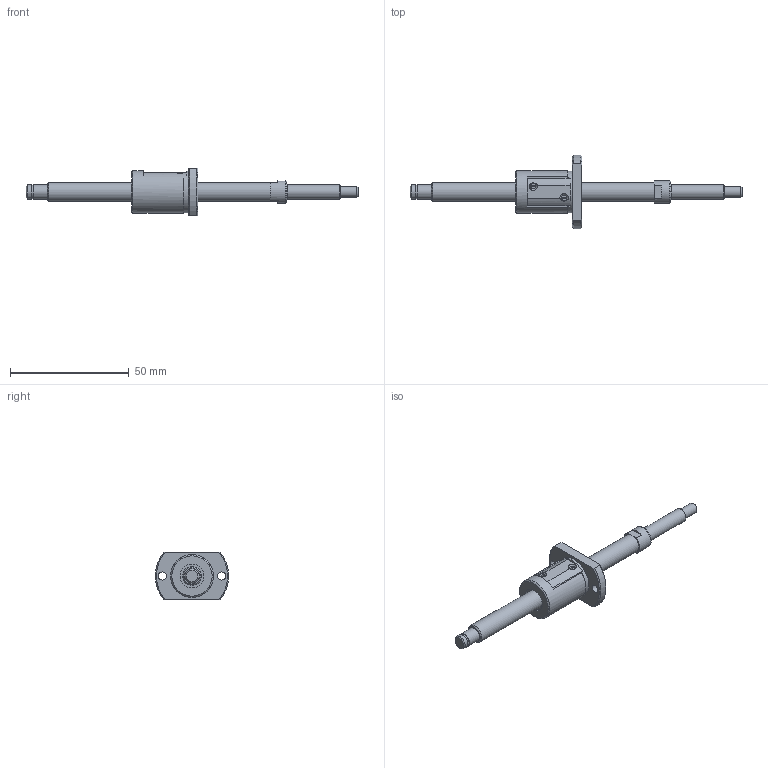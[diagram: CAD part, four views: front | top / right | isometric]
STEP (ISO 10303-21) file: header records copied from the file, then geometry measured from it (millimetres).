
FILE_DESCRIPTION(/* description */ ('STEP AP214'),/* implementation_level */ '2;1');
FILE_NAME(/* name */ 'SG0805-090R140C5B0X(35.5)',/* time_stamp */ '2026-07-21T16:51:18+02:00',/* author */ ('License CC BY-ND 4.0'),/* organization */ ('CADENAS'),/* preprocessor_version */ 'ST-DEVELOPER v20',/* originating_system */ 'PARTsolutions',/* authorisation */ ' ');
FILE_SCHEMA (('AUTOMOTIVE_DESIGN {1 0 10303 214 3 1 1}'));
Length unit declared in the file: millimetre
Products named in the file (3): SG0805-090R140C5B0X(35.5); SG0805-90R140C5B_shaft; SG0805 C5_nut
Assembly tree (2 placements, depth 2):
  SG0805-090R140C5B0X(35.5)
    SG0805-90R140C5B_shaft
    SG0805 C5_nut
Bounding box: 140 x 30.91 x 20 mm (x, y, z)
Volume: 12890.9 mm3; surface area: 6920.2 mm2
Topology: 2 solids, 2 shells, 79 faces, 188 edges, 123 vertices
Faces by surface type: plane 38, cylinder 26, cone 14, torus 1
Full cylindrical faces by diameter (mm): 3.4 x2, 4.5 x1, 5.7 x1, 6 x3, 8 x2, 9.5 x1, 10 x2, 17.7 x1, 18 x1
Entity records: 2197 total; most frequent: CARTESIAN_POINT 408, DIRECTION 374, ORIENTED_EDGE 306, AXIS2_PLACEMENT_3D 157, EDGE_CURVE 153, EDGE_LOOP 120, FACE_BOUND 120, VERTEX_POINT 113
